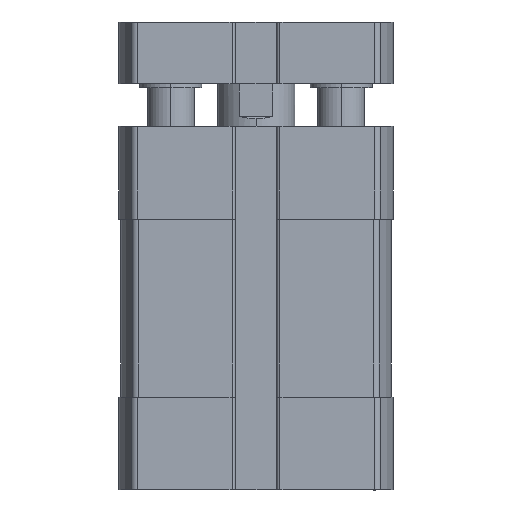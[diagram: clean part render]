
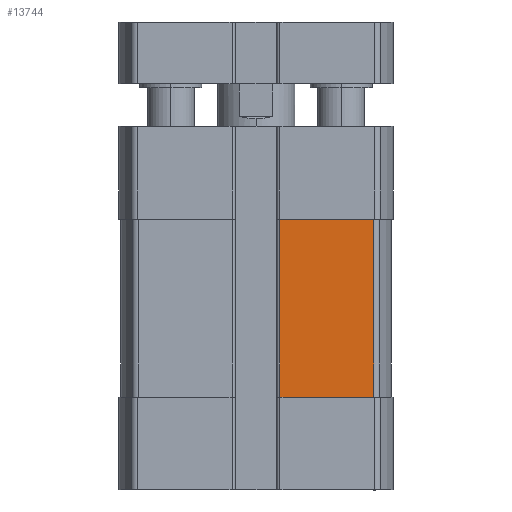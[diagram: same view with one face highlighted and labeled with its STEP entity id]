
A CAD part, front view. The second image highlights one B-rep face of the part: STEP entity #13744.
In plain terms, the highlighted planar face has unit normal (0, -1, 0) as drawn and (-1, 0, 0) by its records, which use the part's own axes.
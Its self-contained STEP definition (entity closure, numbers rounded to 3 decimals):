
#31 = VECTOR ( 'NONE', #1546, 1000. ) ;
#711 = EDGE_CURVE ( 'NONE', #9582, #4806, #4152, .T. ) ;
#1546 = DIRECTION ( 'NONE',  ( 0., 0., 1. ) ) ;
#2120 = DIRECTION ( 'NONE',  ( 0., 0., 1. ) ) ;
#2209 = FACE_OUTER_BOUND ( 'NONE', #14979, .T. ) ;
#3230 = LINE ( 'NONE', #15142, #14439 ) ;
#3372 = CARTESIAN_POINT ( 'NONE',  ( -17.5, 0., -12. ) ) ;
#3807 = EDGE_CURVE ( 'NONE', #8746, #4806, #11487, .T. ) ;
#3845 = EDGE_CURVE ( 'NONE', #9582, #11284, #3230, .T. ) ;
#4005 = CARTESIAN_POINT ( 'NONE',  ( -17.5, -3.1, -35. ) ) ;
#4152 = LINE ( 'NONE', #8719, #31 ) ;
#4343 = EDGE_CURVE ( 'NONE', #11284, #8746, #7580, .T. ) ;
#4806 = VERTEX_POINT ( 'NONE', #7501 ) ;
#7501 = CARTESIAN_POINT ( 'NONE',  ( -17.5, -3.1, -12. ) ) ;
#7580 = LINE ( 'NONE', #12875, #10565 ) ;
#7723 = ORIENTED_EDGE ( 'NONE', *, *, #4343, .T. ) ;
#8719 = CARTESIAN_POINT ( 'NONE',  ( -17.5, -3.1, -35. ) ) ;
#8746 = VERTEX_POINT ( 'NONE', #16623 ) ;
#9479 = CARTESIAN_POINT ( 'NONE',  ( -17.5, -3.1, -35. ) ) ;
#9582 = VERTEX_POINT ( 'NONE', #4005 ) ;
#10501 = ORIENTED_EDGE ( 'NONE', *, *, #3845, .T. ) ;
#10565 = VECTOR ( 'NONE', #14318, 1000. ) ;
#10687 = DIRECTION ( 'NONE',  ( 0., 1., 0. ) ) ;
#10948 = DIRECTION ( 'NONE',  ( -1., 0., 0. ) ) ;
#11284 = VERTEX_POINT ( 'NONE', #16529 ) ;
#11487 = LINE ( 'NONE', #3372, #18761 ) ;
#12875 = CARTESIAN_POINT ( 'NONE',  ( -17.5, -15.253, -35. ) ) ;
#13669 = DIRECTION ( 'NONE',  ( 0., -1., 0. ) ) ;
#13744 = ADVANCED_FACE ( 'NONE', ( #2209 ), #18189, .T. ) ;
#14318 = DIRECTION ( 'NONE',  ( 0., 0., 1. ) ) ;
#14439 = VECTOR ( 'NONE', #13669, 1000. ) ;
#14979 = EDGE_LOOP ( 'NONE', ( #10501, #7723, #17432, #18058 ) ) ;
#15142 = CARTESIAN_POINT ( 'NONE',  ( -17.5, -3.1, -35. ) ) ;
#16301 = AXIS2_PLACEMENT_3D ( 'NONE', #9479, #10948, #2120 ) ;
#16529 = CARTESIAN_POINT ( 'NONE',  ( -17.5, -15.253, -35. ) ) ;
#16623 = CARTESIAN_POINT ( 'NONE',  ( -17.5, -15.253, -12. ) ) ;
#17432 = ORIENTED_EDGE ( 'NONE', *, *, #3807, .T. ) ;
#18058 = ORIENTED_EDGE ( 'NONE', *, *, #711, .F. ) ;
#18189 = PLANE ( 'NONE',  #16301 ) ;
#18761 = VECTOR ( 'NONE', #10687, 1000. ) ;
